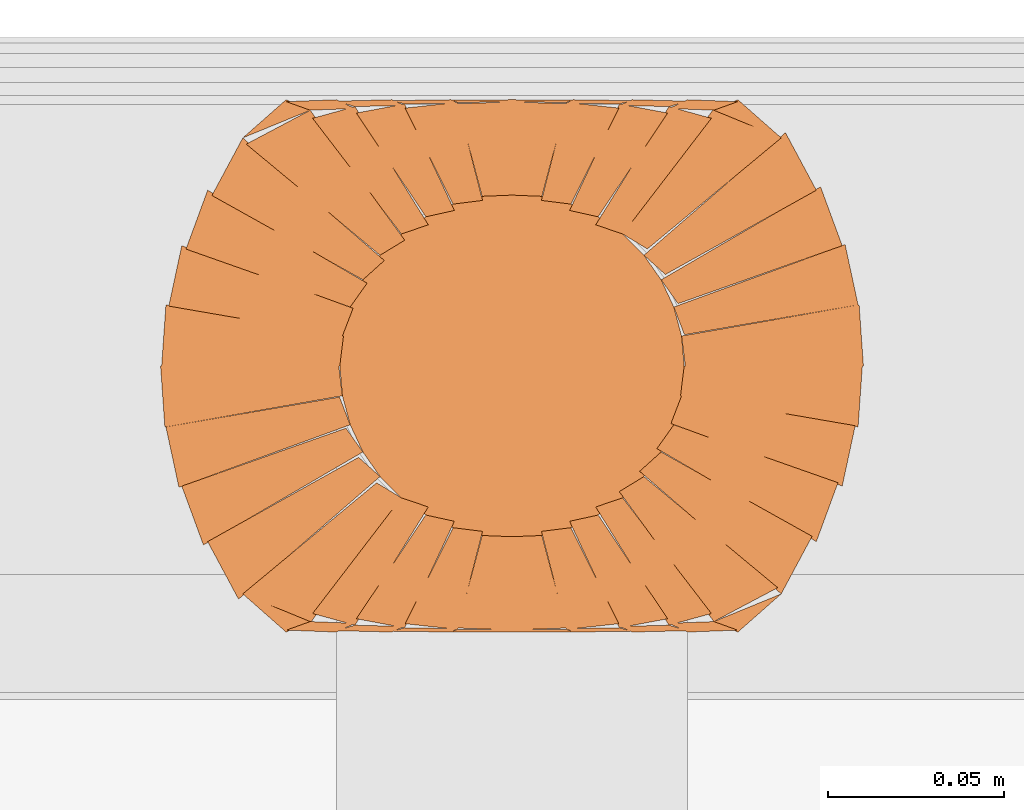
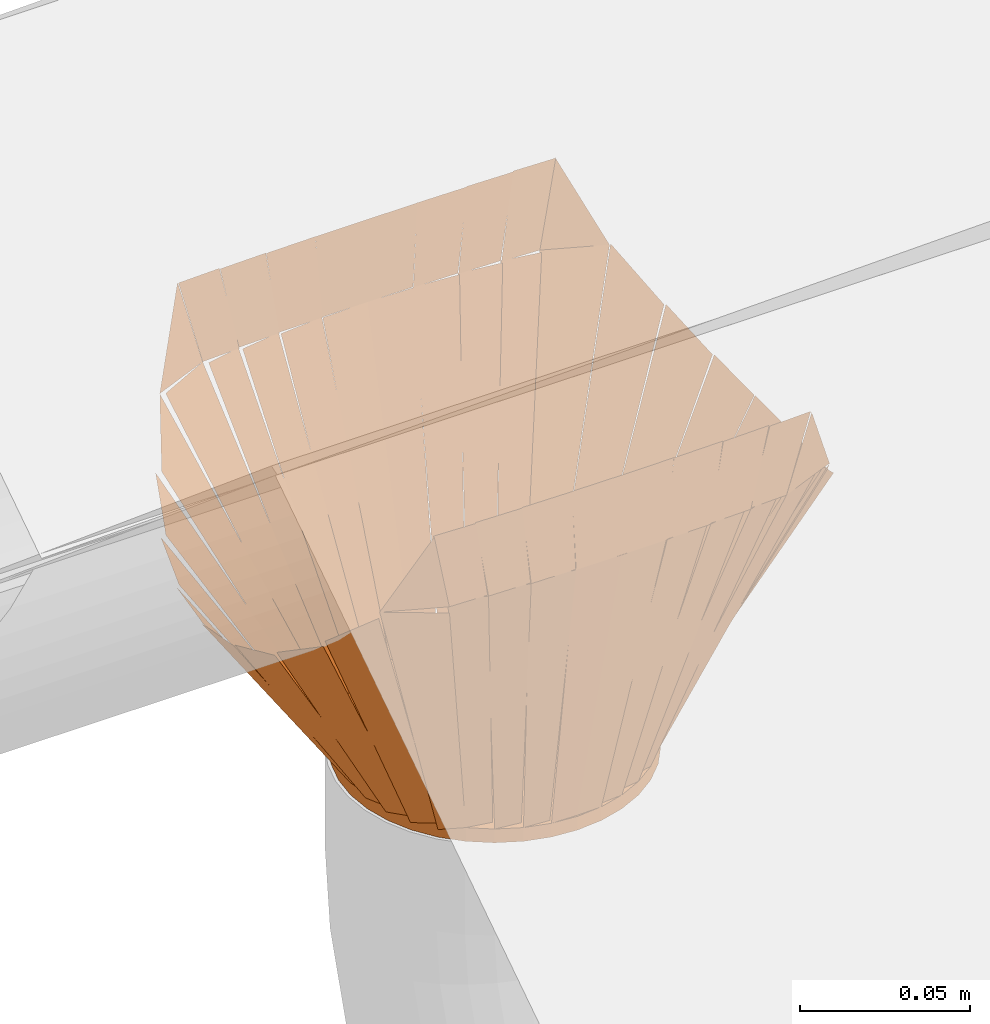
# One storey, part 33 of 43: 1 proxy.
"""IFC2X3 building model written with IfcOpenShell, lengths in millimetres."""

from ifc_helpers import new_model, si_unit, frame, origin_with_axes, place, context, project, spatial, faceted_brep, element, save


model = new_model("IFC2X3")

# Units and contexts
model_context = context("Model", 3, world=origin_with_axes())
ifc_project = project(units=[si_unit("LENGTHUNIT", "METRE", prefix="MILLI")], contexts=[model_context])

# Site, building, storey
site_placement = place(None, origin_with_axes())
site = spatial("IfcSite", under=ifc_project, at=site_placement, Name="Site", CompositionType="ELEMENT")
building_placement = place(site_placement, origin_with_axes())
building = spatial("IfcBuilding", under=site, at=building_placement, Name="?", CompositionType="ELEMENT")
storey_placement = place(building_placement, frame((0.0, 0.0, 5938.0), z_axis=(0.0, 0.0, 1.0), x_axis=(1.0, 0.0, 0.0)))
storey = spatial("IfcBuildingStorey", under=building, at=storey_placement, Name="Dachgeschoß", CompositionType="ELEMENT", Elevation=5938.0)

# Proxy
proxy_placement = place(None, origin_with_axes())
element("IfcBuildingElementProxy", 1, at=proxy_placement, inside=storey, Name="Dach04_Sump#001", ObjectType="sump", CompositionType="ELEMENT", context=model_context, shape_type="Brep", body=[
    faceted_brep([(51.0, 579.010009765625, 6505.79443359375), (0.30090216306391, 578.967993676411, 6580.93962337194), (1.51919832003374, 596.374810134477, 6582.73663250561), (52.0453037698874, 587.47679385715, 6505.99742441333), (51.7444000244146, 587.518798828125, 6505.79443359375), (2.33548522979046, 596.02236483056, 6583.29570176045), (6.03070076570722, 613.211998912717, 6588.73663108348), (54.771384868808, 595.416564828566, 6506.3535043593), (53.9551010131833, 595.768981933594, 6505.79443359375), (7.23261876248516, 612.249947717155, 6589.59595129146), (13.3975000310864, 629.009981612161, 6599.73663675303), (58.766720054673, 602.547947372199, 6506.65374850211), (57.5648002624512, 603.510009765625, 6505.79443359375), (14.6082441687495, 627.506340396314, 6600.66517917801), (23.3955984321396, 643.888809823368, 6615.736631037), (63.6745464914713, 609.002940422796, 6506.72298136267), (62.4637985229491, 610.506591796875, 6505.79443359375), (24.3718714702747, 642.11923380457, 6616.57727050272), (42.5750986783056, 651.762690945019, 6615.73663044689), (69.4796717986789, 614.776634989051, 6506.63507364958), (68.5034027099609, 616.546203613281, 6505.79443359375), (43.2615551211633, 649.473509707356, 6616.57347435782), (55.3313026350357, 652.786904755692, 6615.73663420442), (76.186455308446, 619.15600860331, 6506.63127382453), (75.5000000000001, 621.445190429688, 6505.79443359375), (55.6954994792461, 650.963182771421, 6616.28910531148), (69.4448001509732, 653.541589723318, 6615.7366356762), (83.605198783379, 623.231183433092, 6506.3469032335), (83.2409973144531, 625.054870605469, 6505.79443359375), (69.5788719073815, 652.373219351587, 6616.04275099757), (84.4866973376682, 654.003770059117, 6615.73663149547), (91.6252723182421, 626.097219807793, 6506.10055309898), (91.4912033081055, 627.265625, 6505.79443359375), (84.5017490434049, 653.602238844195, 6615.83370153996), (100.00000317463, 654.159424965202, 6615.7366309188), (100.015048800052, 627.608438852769, 6505.89150420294), (108.508796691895, 627.265625, 6505.79443359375), (99.984951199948, 627.608438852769, 6505.89150420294), (99.9999968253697, 654.159424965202, 6615.7366309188), (115.498250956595, 653.602238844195, 6615.83370153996), (116.759002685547, 625.054870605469, 6505.79443359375), (108.374727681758, 626.097219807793, 6506.10055309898), (115.513302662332, 654.003770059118, 6615.73663149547), (130.421128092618, 652.373219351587, 6616.04275099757), (124.5, 621.445190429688, 6505.79443359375), (116.394801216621, 623.231183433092, 6506.3469032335), (130.555199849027, 653.541589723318, 6615.7366356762), (144.304500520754, 650.963182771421, 6616.28910531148), (131.496597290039, 616.546203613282, 6505.79443359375), (123.813544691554, 619.156008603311, 6506.63127382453), (144.668697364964, 652.786904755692, 6615.73663420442), (156.738444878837, 649.473509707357, 6616.57347435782), (131.496597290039, 616.546203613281, 6505.79443359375), (158.401170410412, 653.532259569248, 6614.89599039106), (176.604397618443, 643.888802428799, 6615.73663044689), (138.512470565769, 612.276160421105, 6504.95379353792), (137.536193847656, 610.506591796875, 6505.79443359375), (177.815141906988, 645.392461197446, 6614.80808326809), (186.602496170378, 629.009991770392, 6599.73663140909), (143.645940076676, 605.013661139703, 6504.86588582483), (142.435195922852, 603.510009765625, 6505.79443359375), (187.804415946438, 629.972044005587, 6598.87732184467), (193.96929721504, 613.212010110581, 6588.7366363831), (147.246814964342, 596.73104432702, 6504.93511868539), (146.044906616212, 595.768981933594, 6505.79443359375), (194.785596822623, 613.564421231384, 6588.17755842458), (198.480803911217, 596.374881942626, 6582.73663496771), (149.071899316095, 587.871220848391, 6505.23535685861), (148.255599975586, 587.518798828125, 6505.79443359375), (198.78169916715, 596.416914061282, 6582.5336459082), (199.999998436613, 579.009999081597, 6580.73663465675), (149.300900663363, 579.052014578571, 6505.59144481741), (149.0, 579.010009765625, 6505.79443359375), (199.699103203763, 579.052025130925, 6580.93961803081), (198.480800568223, 561.645209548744, 6582.73663139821), (147.954702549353, 570.543325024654, 6505.99742015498), (148.255599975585, 570.501281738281, 6505.79443359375), (197.664497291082, 561.997622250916, 6583.29571912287), (193.969300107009, 544.807981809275, 6588.73663588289), (145.228596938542, 562.603422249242, 6506.35351666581), (146.044906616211, 562.2509765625, 6505.79443359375), (192.7673644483, 545.770016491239, 6589.59596421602), (186.602605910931, 529.009975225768, 6599.73663640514), (141.233365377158, 555.472017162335, 6506.65376173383), (142.435302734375, 554.510009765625, 6505.79443359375), (185.391873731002, 530.513671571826, 6600.66517290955), (176.604501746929, 514.131308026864, 6615.73663441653), (136.325474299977, 549.017072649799, 6506.72297220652), (137.536193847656, 547.513427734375, 6505.79443359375), (175.628225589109, 515.900862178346, 6616.5772624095), (157.424993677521, 506.257327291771, 6615.7366306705), (130.520325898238, 543.24336255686, 6506.63506533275), (131.496597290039, 541.473815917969, 6505.79443359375), (156.738545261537, 508.546520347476, 6616.5734784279), (144.668697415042, 505.233114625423, 6615.73663476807), (123.81354494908, 538.864021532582, 6506.63127727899), (124.5, 536.574829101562, 6505.79443359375), (144.304500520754, 507.056836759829, 6616.28910531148), (130.555199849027, 504.478429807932, 6615.7366356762), (116.394801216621, 534.788836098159, 6506.3469032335), (116.759002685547, 532.965087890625, 6505.79443359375), (130.421128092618, 505.646739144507, 6616.04275099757), (115.513302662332, 504.016188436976, 6615.73663149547), (108.374727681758, 531.922738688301, 6506.10055309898), (108.508796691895, 530.75439453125, 6505.79443359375), (115.498250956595, 504.417780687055, 6615.83370153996), (99.9999968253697, 503.860594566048, 6615.7366309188), (99.984951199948, 530.411580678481, 6505.89150420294), (91.4913024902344, 530.75439453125, 6505.79443359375), (100.015048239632, 530.411581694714, 6505.89150445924), (100.000002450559, 503.86059390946, 6615.73663117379), (84.501848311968, 504.417781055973, 6615.83370203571), (83.2409973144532, 532.965087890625, 6505.79443359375), (91.6253710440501, 531.922732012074, 6506.10055124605), (84.4867973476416, 504.016188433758, 6615.73663560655), (69.578970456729, 505.646732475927, 6616.04275325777), (75.5000000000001, 536.57470703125, 6505.79443359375), (83.6051803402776, 534.788761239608, 6506.34688478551), (69.4448998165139, 504.478405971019, 6615.73663578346), (55.69557949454, 507.056760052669, 6616.28908697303), (68.5034027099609, 541.473815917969, 6505.79443359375), (76.1864805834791, 538.863968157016, 6506.63129507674), (55.3314026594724, 505.233115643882, 6615.73663264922), (43.2615804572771, 508.546568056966, 6616.57349410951), (68.5034027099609, 541.473815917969, 6505.79443359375), (41.5988295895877, 504.487759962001, 6614.89599039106), (23.3956023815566, 514.13121710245, 6615.73663044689), (61.4875294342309, 545.743859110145, 6504.95379353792), (62.4637985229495, 547.513427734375, 6505.79443359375), (22.1848454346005, 512.627539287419, 6614.80807921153), (13.3974990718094, 529.009928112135, 6599.73663630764), (56.3540441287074, 553.006338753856, 6504.86587603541), (57.5648002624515, 554.510009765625, 6505.79443359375), (12.195592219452, 528.047891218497, 6598.87732511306), (6.03079927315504, 544.807910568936, 6588.73663091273), (52.7531931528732, 561.288990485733, 6504.93512814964), (53.9551010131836, 562.2509765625, 6505.79443359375), (5.21449563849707, 544.455431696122, 6588.17755185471), (1.51919909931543, 561.645076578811, 6582.73663560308), (50.928097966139, 570.148731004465, 6505.23534983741), (51.7444000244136, 570.501220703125, 6505.79443359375), (1.21830083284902, 561.603105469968, 6582.5336459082), (1.56338665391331e-06, 579.010020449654, 6580.73663465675), (50.6990993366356, 578.968004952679, 6505.59144481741), (42.5750999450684, 651.7626953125, 6615.736328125), (23.3955993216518, 643.888794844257, 6615.736328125), (35.7211997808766, 654.749995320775, 6645.00632737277), (50.0, 654.75, 6645.00634765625), (55.3515904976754, 652.251305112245, 6615.78586307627), (42.5751001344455, 651.76269994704, 6615.73634729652), (35.7414908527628, 654.214405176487, 6645.05586343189), (65.7979965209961, 654.75, 6645.00634765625), (69.4548134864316, 653.144589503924, 6615.75939249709), (55.3312966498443, 652.786899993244, 6615.7363475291), (50.0100137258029, 654.352989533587, 6645.02939262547), (82.6352005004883, 654.75, 6645.00634765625), (84.4902347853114, 653.760031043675, 6615.74481863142), (69.4448005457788, 653.541600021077, 6615.73634744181), (65.8015348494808, 654.506231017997, 6645.01481884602), (100.0, 654.75, 6645.00634765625), (100.000388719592, 654.077264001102, 6615.73823528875), (84.4867001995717, 654.003800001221, 6615.73634736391), (82.6355889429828, 654.667863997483, 6645.00823558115), (115.513298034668, 654.003784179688, 6615.736328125), (99.9996095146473, 654.077248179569, 6615.73821604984), (99.9999982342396, 654.749984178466, 6645.00632841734), (117.364409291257, 654.66784817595, 6645.00821634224), (130.555206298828, 653.541625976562, 6615.736328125), (115.509772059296, 653.760056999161, 6615.74479931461), (117.364806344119, 654.750025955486, 6645.00632833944), (134.198471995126, 654.506256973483, 6645.01479952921), (144.668701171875, 652.786926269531, 6615.736328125), (130.545184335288, 653.144615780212, 6615.75937309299), (134.202001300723, 654.750026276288, 6645.00632825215), (149.989984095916, 654.353015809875, 6645.02937322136), (157.424896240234, 651.7626953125, 6615.736328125), (144.648405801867, 652.251302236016, 6615.78584371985), (149.999996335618, 654.749995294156, 6645.00632838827), (164.258405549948, 654.214402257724, 6645.05584398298), (176.604400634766, 643.888793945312, 6615.736328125), (157.424900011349, 651.762694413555, 6615.736328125), (164.278700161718, 654.749994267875, 6645.00632773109), (157.425003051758, 506.257293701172, 6615.736328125), (176.604502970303, 514.131293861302, 6615.736328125), (164.278802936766, 503.269993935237, 6645.00632830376), (150.0, 503.269989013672, 6645.00634765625), (144.648409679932, 505.768681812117, 6615.78586309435), (157.424999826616, 506.25728894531, 6615.73634755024), (164.258509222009, 503.805581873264, 6645.05586320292), (134.201995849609, 503.269989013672, 6645.00634765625), (130.545178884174, 504.875399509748, 6615.75939249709), (144.668695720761, 505.233089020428, 6615.7363475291), (149.989978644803, 503.666999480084, 6645.02939262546), (117.364898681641, 503.269989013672, 6645.00634765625), (115.509764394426, 504.259957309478, 6615.74481858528), (130.555198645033, 504.478389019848, 6615.73634741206), (134.198464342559, 503.513757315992, 6645.01481882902), (100.0, 503.269989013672, 6645.00634765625), (99.9996112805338, 503.942725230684, 6615.73823528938), (115.513299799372, 504.016189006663, 6615.73634735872), (117.36451105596, 503.352125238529, 6645.00823558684), (84.4868011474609, 504.016204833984, 6615.736328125), (100.000389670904, 503.942741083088, 6615.73821605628), (100.000000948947, 503.27000481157, 6645.00632842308), (82.6355898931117, 503.352141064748, 6645.00821635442), (69.4449005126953, 504.478393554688, 6615.736328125), (84.4903347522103, 504.259962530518, 6615.74479932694), (82.6352004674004, 503.269993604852, 6645.00632839), (65.8015348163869, 503.513762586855, 6645.01479959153), (55.3314018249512, 505.233093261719, 6615.736328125), (69.4549186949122, 504.875402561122, 6615.75937304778), (65.79800171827, 503.269993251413, 6645.00632834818), (50.0101188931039, 503.667002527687, 6645.02937326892), (42.5750999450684, 506.257293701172, 6615.736328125), (55.3516900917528, 505.768686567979, 6615.7858436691), (50.0000997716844, 503.269993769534, 6645.00632823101), (35.7415905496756, 503.805586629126, 6645.05584377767), (23.3955993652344, 514.131225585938, 6615.736328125), (42.5750999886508, 506.257325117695, 6615.736328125), (35.7212998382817, 503.270025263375, 6645.00632773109), (51.0, 579.010009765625, 6500.82421875), (51.0, 579.010009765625, 6505.79421875), (51.7444000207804, 587.518809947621, 6505.79421875), (51.7444000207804, 587.518809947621, 6500.82421875), (51.7444000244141, 587.518798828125, 6500.82421875), (51.7444000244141, 587.518798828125, 6505.79421875), (53.9550999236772, 595.76899881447, 6505.79421875), (53.9550999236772, 595.76899881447, 6500.82421875), (53.9551010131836, 595.768981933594, 6500.82421875), (53.9551010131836, 595.768981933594, 6505.79421875), (57.5648010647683, 603.509981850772, 6505.79421875), (57.5648010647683, 603.509981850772, 6500.82421875), (57.5648002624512, 603.510009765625, 6500.82421875), (57.5648002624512, 603.510009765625, 6505.79421875), (62.4638003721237, 610.506609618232, 6505.79421875), (62.4638003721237, 610.506609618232, 6500.82421875), (62.4637985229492, 610.506591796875, 6500.82421875), (62.4637985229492, 610.506591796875, 6505.79421875), (68.5033984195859, 616.546191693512, 6505.79421875), (68.5033984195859, 616.546191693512, 6500.82421875), (68.503402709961, 616.546203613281, 6500.82421875), (68.503402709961, 616.546203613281, 6505.79421875), (75.5000025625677, 621.445203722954, 6505.79421875), (75.5000025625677, 621.445203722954, 6500.82421875), (75.5, 621.445190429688, 6500.82421875), (75.5, 621.445190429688, 6505.79421875), (83.2409999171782, 625.054890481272, 6505.79421875), (83.2409999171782, 625.054890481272, 6500.82421875), (83.2409973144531, 625.054870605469, 6500.82421875), (83.2409973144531, 625.054870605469, 6505.79421875), (91.4911973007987, 627.265570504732, 6505.79421875), (91.4911973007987, 627.265570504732, 6500.82421875), (91.4912033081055, 627.265625, 6500.82421875), (91.4912033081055, 627.265625, 6505.79421875), (100.000003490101, 628.01002502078, 6505.79421875), (100.000003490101, 628.01002502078, 6500.82421875), (100.0, 628.010009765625, 6500.82421875), (100.0, 628.010009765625, 6505.79421875), (108.508800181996, 627.265609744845, 6505.79421875), (108.508800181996, 627.265609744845, 6500.82421875), (108.508796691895, 627.265625, 6500.82421875), (108.508796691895, 627.265625, 6505.79421875), (116.75899667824, 625.054925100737, 6505.79421875), (116.75899667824, 625.054925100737, 6500.82421875), (116.759002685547, 625.054870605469, 6500.82421875), (116.759002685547, 625.054870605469, 6505.79421875), (124.500002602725, 621.445170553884, 6505.79421875), (124.500002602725, 621.445170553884, 6500.82421875), (124.5, 621.445190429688, 6500.82421875), (124.5, 621.445190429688, 6505.79421875), (131.496599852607, 616.546190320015, 6505.79421875), (131.496599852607, 616.546190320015, 6500.82421875), (131.496597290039, 616.546203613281, 6500.82421875), (131.496597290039, 616.546203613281, 6505.79421875), (137.536197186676, 610.506603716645, 6505.79421875), (137.536197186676, 610.506603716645, 6500.82421875), (137.536193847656, 610.506591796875, 6500.82421875), (137.536193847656, 610.506591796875, 6505.79421875), (142.435193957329, 603.509991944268, 6505.79421875), (142.435193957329, 603.509991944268, 6500.82421875), (142.435195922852, 603.510009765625, 6500.82421875), (142.435195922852, 603.510009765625, 6505.79421875), (146.044895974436, 595.769009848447, 6505.79421875), (146.044895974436, 595.769009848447, 6500.82421875), (146.044906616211, 595.768981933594, 6500.82421875), (146.044906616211, 595.768981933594, 6505.79421875), (148.255606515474, 587.518781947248, 6505.79421875), (148.255606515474, 587.518781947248, 6500.82421875), (148.255599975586, 587.518798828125, 6500.82421875), (148.255599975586, 587.518798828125, 6505.79421875), (148.999999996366, 579.009998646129, 6505.79421875), (148.999999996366, 579.009998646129, 6500.82421875), (149.0, 579.010009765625, 6500.82421875), (149.0, 579.010009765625, 6505.79421875), (148.255600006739, 570.501309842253, 6505.79421875), (148.255600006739, 570.501309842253, 6500.82421875), (148.255599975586, 570.501281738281, 6500.82421875), (148.255599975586, 570.501281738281, 6505.79421875), (146.044900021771, 562.250981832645, 6505.79421875), (146.044900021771, 562.250981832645, 6500.82421875), (146.044906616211, 562.2509765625, 6500.82421875), (146.044906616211, 562.2509765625, 6505.79421875), (142.435306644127, 554.509976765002, 6505.79421875), (142.435306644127, 554.509976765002, 6500.82421875), (142.435302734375, 554.510009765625, 6500.82421875), (142.435302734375, 554.510009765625, 6505.79421875), (137.536202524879, 547.51340976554, 6505.79421875), (137.536202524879, 547.51340976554, 6500.82421875), (137.536193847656, 547.513427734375, 6500.82421875), (137.536193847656, 547.513427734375, 6505.79421875), (131.49659395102, 541.473827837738, 6505.79421875), (131.49659395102, 541.473827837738, 6500.82421875), (131.496597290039, 541.473815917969, 6500.82421875), (131.496597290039, 541.473815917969, 6505.79421875), (124.499997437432, 536.574815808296, 6505.79421875), (124.499997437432, 536.574815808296, 6500.82421875), (124.5, 536.574829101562, 6500.82421875), (124.5, 536.574829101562, 6505.79421875), (116.759000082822, 532.965129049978, 6505.79421875), (116.759000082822, 532.965129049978, 6500.82421875), (116.759002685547, 532.965087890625, 6500.82421875), (116.759002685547, 532.965087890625, 6505.79421875), (108.508802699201, 530.754387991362, 6505.79421875), (108.508802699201, 530.754387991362, 6500.82421875), (108.508796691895, 530.75439453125, 6500.82421875), (108.508796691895, 530.75439453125, 6505.79421875), (99.9999965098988, 530.00999451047, 6505.79421875), (99.9999965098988, 530.00999451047, 6500.82421875), (100.0, 530.010009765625, 6500.82421875), (100.0, 530.010009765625, 6505.79421875), (91.4913000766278, 530.754409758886, 6505.79421875), (91.4913000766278, 530.754409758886, 6500.82421875), (91.4913024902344, 530.75439453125, 6500.82421875), (91.4913149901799, 530.754441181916, 6505.79421874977), (83.2410023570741, 532.965094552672, 6505.79421875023), (83.241014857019, 532.965041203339, 6500.82421874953), (83.2409973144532, 532.965026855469, 6500.82421875), (83.2409781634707, 532.965085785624, 6505.79421875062), (75.4999972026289, 536.574726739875, 6505.79421875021), (75.499978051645, 536.574685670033, 6500.82421875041), (75.5, 536.57470703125, 6500.82421875), (75.5, 536.57470703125, 6505.79421875), (68.5033999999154, 541.473807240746, 6505.79421875), (68.5033999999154, 541.473807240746, 6500.82421875), (68.5034027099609, 541.473815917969, 6500.82421875), (68.5034027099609, 541.473815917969, 6505.79421875), (62.4638028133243, 547.513415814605, 6505.79421875), (62.4638028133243, 547.513415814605, 6500.82421875), (62.4637985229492, 547.513427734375, 6500.82421875), (62.4637985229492, 547.513427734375, 6505.79421875), (57.5647984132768, 554.510027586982, 6505.79421875), (57.5647984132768, 554.510027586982, 6500.82421875), (57.5648002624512, 554.510009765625, 6500.82421875), (57.5648002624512, 554.510009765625, 6505.79421875), (53.9551002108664, 562.251009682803, 6505.79421875), (53.9551002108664, 562.251009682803, 6500.82421875), (53.9551010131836, 562.2509765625, 6500.82421875), (53.9551010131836, 562.2509765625, 6505.79421875), (51.7444011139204, 570.501176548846, 6505.79421875), (51.7444011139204, 570.501176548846, 6500.82421875), (51.7444000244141, 570.501220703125, 6500.82421875), (51.7444000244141, 570.501220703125, 6505.79421875), (51.0000000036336, 579.010020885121, 6505.79421875), (51.0000000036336, 579.010020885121, 6500.82421875), (53.9551010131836, 562.2509765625, 6500.82421875), (51.0000010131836, 579.0099765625, 6500.82421875), (62.4638010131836, 547.5133765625, 6500.82421875), (57.5648010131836, 554.5099765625, 6500.82421875), (62.4637985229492, 547.513427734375, 6500.82421875), (91.4912985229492, 530.754427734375, 6500.82421875), (75.4999985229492, 536.574727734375, 6500.82421875), (68.5033985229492, 541.473827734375, 6500.82421875), (75.5, 536.57470703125, 6500.82421875), (91.4913, 530.75440703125, 6500.82421875), (83.241, 532.96500703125, 6500.82421875), (91.4913024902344, 530.75439453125, 6500.82421875), (124.500002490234, 536.57479453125, 6500.82421875), (108.508802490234, 530.75439453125, 6500.82421875), (100.000002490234, 530.00999453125, 6500.82421875), (108.508796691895, 530.75439453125, 6500.82421875), (124.499996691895, 536.57479453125, 6500.82421875), (116.758996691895, 532.96509453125, 6500.82421875), (124.5, 536.574829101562, 6500.82421875), (146.0449, 562.251029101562, 6500.82421875), (137.5362, 547.513429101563, 6500.82421875), (131.4966, 541.473829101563, 6500.82421875), (137.536193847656, 547.513427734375, 6500.82421875), (146.044893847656, 562.251027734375, 6500.82421875), (142.435293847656, 554.510027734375, 6500.82421875), (91.4913024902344, 530.75439453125, 6500.82421875), (62.4638024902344, 610.50659453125, 6500.82421875), (146.044902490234, 562.25099453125, 6500.82421875), (124.500002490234, 536.57479453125, 6500.82421875), (146.044906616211, 562.2509765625, 6500.82421875), (146.044906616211, 595.7689765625, 6500.82421875), (149.000006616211, 579.0099765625, 6500.82421875), (148.255606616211, 570.5012765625, 6500.82421875), (149.0, 579.010009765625, 6500.82421875), (146.0449, 595.769009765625, 6500.82421875), (148.2556, 587.518809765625, 6500.82421875), (146.044906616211, 595.768981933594, 6500.82421875), (124.500006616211, 621.445181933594, 6500.82421875), (137.536206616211, 610.506581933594, 6500.82421875), (142.435206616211, 603.509981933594, 6500.82421875), (137.536193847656, 610.506591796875, 6500.82421875), (124.499993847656, 621.445191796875, 6500.82421875), (131.496593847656, 616.546191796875, 6500.82421875), (146.044906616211, 562.2509765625, 6500.82421875), (62.4638066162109, 610.5065765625, 6500.82421875), (124.500006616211, 621.4451765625, 6500.82421875), (146.044906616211, 595.7689765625, 6500.82421875), (124.5, 621.445190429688, 6500.82421875), (91.4912, 627.265590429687, 6500.82421875), (108.5088, 627.265590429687, 6500.82421875), (116.759, 625.054890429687, 6500.82421875), (108.508796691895, 627.265625, 6500.82421875), (91.4911966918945, 627.265625, 6500.82421875), (99.9999966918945, 628.010025, 6500.82421875), (91.4912033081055, 627.265625, 6500.82421875), (62.4638033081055, 610.506625, 6500.82421875), (75.5000033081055, 621.445225, 6500.82421875), (83.2410033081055, 625.054925, 6500.82421875), (75.5, 621.445190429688, 6500.82421875), (62.4638, 610.506590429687, 6500.82421875), (68.5034, 616.546190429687, 6500.82421875), (124.5, 621.445190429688, 6500.82421875), (62.4638, 610.506590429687, 6500.82421875), (91.4912, 627.265590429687, 6500.82421875), (62.4637985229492, 610.506591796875, 6500.82421875), (50.9999985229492, 579.009991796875, 6500.82421875), (53.9550985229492, 595.768991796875, 6500.82421875), (57.5647985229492, 603.509991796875, 6500.82421875), (53.9551010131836, 595.768981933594, 6500.82421875), (51.0000010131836, 579.009981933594, 6500.82421875), (51.7444010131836, 587.518781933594, 6500.82421875), (91.4913024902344, 530.75439453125, 6500.82421875), (62.4638024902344, 547.51339453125, 6500.82421875), (51.0000024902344, 579.00999453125, 6500.82421875), (62.4638024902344, 610.50659453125, 6500.82421875), (51.7444000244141, 570.501220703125, 6500.82421875), (51.0000000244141, 579.010020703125, 6500.82421875), (53.9551000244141, 562.251020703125, 6500.82421875), (51.7444000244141, 587.518798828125, 6505.79443359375), (51.7444000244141, 570.501198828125, 6505.79443359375), (57.5648000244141, 603.509998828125, 6505.79443359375), (53.9551000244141, 595.768998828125, 6505.79443359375), (57.5648002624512, 603.510009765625, 6505.79443359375), (83.2410002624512, 625.054909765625, 6505.79443359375), (68.5034002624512, 616.546209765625, 6505.79443359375), (62.4638002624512, 610.506609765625, 6505.79443359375), (68.5034027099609, 616.546203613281, 6505.79443359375), (83.2410027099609, 625.054903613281, 6505.79443359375), (75.5000027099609, 621.445203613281, 6505.79443359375), (83.2409973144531, 625.054870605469, 6505.79443359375), (116.758997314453, 625.054870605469, 6505.79443359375), (99.9999973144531, 628.009970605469, 6505.79443359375), (91.4911973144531, 627.265570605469, 6505.79443359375), (100.0, 628.010009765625, 6505.79443359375), (116.759, 625.054909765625, 6505.79443359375), (108.5088, 627.265609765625, 6505.79443359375), (116.759002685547, 625.054870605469, 6505.79443359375), (142.435202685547, 603.509970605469, 6505.79443359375), (131.496602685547, 616.546170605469, 6505.79443359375), (124.500002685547, 621.445170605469, 6505.79443359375), (131.496597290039, 616.546203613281, 6505.79443359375), (142.435197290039, 603.510003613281, 6505.79443359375), (137.536197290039, 610.506603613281, 6505.79443359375), (83.2409973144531, 625.054870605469, 6505.79443359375), (68.5033973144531, 541.473770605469, 6505.79443359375), (142.435197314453, 603.509970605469, 6505.79443359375), (116.758997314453, 625.054870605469, 6505.79443359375), (142.435195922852, 603.510009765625, 6505.79443359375), (148.255595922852, 570.501309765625, 6505.79443359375), (148.255595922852, 587.518809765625, 6505.79443359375), (146.044895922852, 595.769009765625, 6505.79443359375), (148.255599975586, 587.518798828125, 6505.79443359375), (148.255599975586, 570.501298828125, 6505.79443359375), (148.999999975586, 579.009998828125, 6505.79443359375), (148.255599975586, 570.501281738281, 6505.79443359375), (131.496599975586, 541.473781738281, 6505.79443359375), (142.435299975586, 554.509981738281, 6505.79443359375), (146.044899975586, 562.250981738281, 6505.79443359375), (142.435302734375, 554.510009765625, 6505.79443359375), (131.496602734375, 541.473809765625, 6505.79443359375), (137.536202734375, 547.513409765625, 6505.79443359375), (142.435195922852, 603.510009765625, 6505.79443359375), (68.5033959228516, 541.473809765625, 6505.79443359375), (131.496595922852, 541.473809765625, 6505.79443359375), (148.255595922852, 570.501309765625, 6505.79443359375), (131.496597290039, 541.473815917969, 6505.79443359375), (99.9999972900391, 530.010015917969, 6505.79443359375), (116.758997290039, 532.965115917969, 6505.79443359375), (124.499997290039, 536.574815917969, 6505.79443359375), (116.759002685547, 532.965087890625, 6505.79443359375), (100.000002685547, 530.009987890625, 6505.79443359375), (108.508802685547, 530.754387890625, 6505.79443359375), (100.0, 530.010009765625, 6505.79443359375), (68.5034, 541.473809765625, 6505.79443359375), (83.241, 532.965109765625, 6505.79443359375), (91.4913, 530.754409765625, 6505.79443359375), (83.2409973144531, 532.965087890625, 6505.79443359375), (68.5033973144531, 541.473787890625, 6505.79443359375), (75.4999973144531, 536.574687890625, 6505.79443359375), (131.496597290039, 541.473815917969, 6505.79443359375), (68.5033972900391, 541.473815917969, 6505.79443359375), (99.9999972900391, 530.010015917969, 6505.79443359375), (68.5034027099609, 541.473815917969, 6505.79443359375), (51.7444027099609, 570.501215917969, 6505.79443359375), (57.5648027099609, 554.510015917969, 6505.79443359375), (62.4638027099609, 547.513415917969, 6505.79443359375), (57.5648002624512, 554.510009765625, 6505.79443359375), (51.7444002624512, 570.501209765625, 6505.79443359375), (53.9551002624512, 562.251009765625, 6505.79443359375), (83.2409973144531, 625.054870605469, 6505.79443359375), (57.5647973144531, 603.509970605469, 6505.79443359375), (51.7443973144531, 570.501170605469, 6505.79443359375), (68.5033973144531, 541.473770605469, 6505.79443359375), (51.0, 579.010009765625, 6505.79443359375), (51.7444, 570.501209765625, 6505.79443359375), (51.7444, 587.518809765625, 6505.79443359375)], [[[0, 1, 2, 3]], [[4, 5, 6, 7]], [[8, 9, 10, 11]], [[12, 13, 14, 15]], [[16, 17, 18, 19]], [[20, 21, 22, 23]], [[24, 25, 26, 27]], [[28, 29, 30, 31]], [[32, 33, 34, 35]], [[36, 37, 38, 39]], [[40, 41, 42, 43]], [[44, 45, 46, 47]], [[48, 49, 50, 51]], [[52, 53, 54, 55]], [[56, 57, 58, 59]], [[60, 61, 62, 63]], [[64, 65, 66, 67]], [[68, 69, 70, 71]], [[72, 73, 74, 75]], [[76, 77, 78, 79]], [[80, 81, 82, 83]], [[84, 85, 86, 87]], [[88, 89, 90, 91]], [[92, 93, 94, 95]], [[96, 97, 98, 99]], [[100, 101, 102, 103]], [[104, 105, 106, 107]], [[108, 109, 110, 111]], [[112, 113, 114, 115]], [[116, 117, 118, 119]], [[120, 121, 122, 123]], [[124, 125, 126, 127]], [[128, 129, 130, 131]], [[132, 133, 134, 135]], [[136, 137, 138, 139]], [[140, 141, 142, 143]], [[144, 145, 146]], [[147, 148, 149, 150]], [[151, 152, 153, 154]], [[155, 156, 157, 158]], [[159, 160, 161, 162]], [[163, 164, 165, 166]], [[167, 168, 169, 170]], [[171, 172, 173, 174]], [[175, 176, 177, 178]], [[179, 180, 181]], [[182, 183, 184]], [[185, 186, 187, 188]], [[189, 190, 191, 192]], [[193, 194, 195, 196]], [[197, 198, 199, 200]], [[201, 202, 203, 204]], [[205, 206, 207, 208]], [[209, 210, 211, 212]], [[213, 214, 215, 216]], [[217, 218, 219]], [[220, 221, 222, 223]], [[224, 225, 226, 227]], [[228, 229, 230, 231]], [[232, 233, 234, 235]], [[236, 237, 238, 239]], [[240, 241, 242, 243]], [[244, 245, 246, 247]], [[248, 249, 250, 251]], [[252, 253, 254, 255]], [[256, 257, 258, 259]], [[260, 261, 262, 263]], [[264, 265, 266, 267]], [[268, 269, 270, 271]], [[272, 273, 274, 275]], [[276, 277, 278, 279]], [[280, 281, 282, 283]], [[284, 285, 286, 287]], [[288, 289, 290, 291]], [[292, 293, 294, 295]], [[296, 297, 298, 299]], [[300, 301, 302, 303]], [[304, 305, 306, 307]], [[308, 309, 310, 311]], [[312, 313, 314, 315]], [[316, 317, 318, 319]], [[320, 321, 322, 323]], [[324, 325, 326, 327]], [[328, 329, 330, 331]], [[332, 333, 334, 335]], [[336, 337, 338, 339]], [[340, 341, 342, 343]], [[344, 345, 346, 347]], [[348, 349, 350, 351]], [[352, 353, 354, 355]], [[356, 357, 358, 359]], [[360, 361, 362, 363]], [[364, 365, 366, 367]], [[368, 369, 370, 371]], [[372, 373, 374]], [[375, 376, 377, 378]], [[379, 380, 381]], [[382, 383, 384, 385]], [[386, 387, 388]], [[389, 390, 391, 392]], [[393, 394, 395, 396]], [[397, 398, 399]], [[400, 401, 402, 403]], [[404, 405, 406]], [[407, 408, 409, 410]], [[411, 412, 413, 414]], [[415, 416, 417]], [[418, 419, 420, 421]], [[422, 423, 424]], [[425, 426, 427]], [[428, 429, 430, 431]], [[432, 433, 434]], [[435, 436, 437, 438]], [[439, 440, 441]], [[442, 443, 444, 445]], [[446, 447, 448, 449]], [[450, 451, 452]], [[453, 454, 455, 456]], [[457, 458, 459]], [[460, 461, 462, 463]], [[464, 465, 466]], [[467, 468, 469, 470]], [[471, 472, 473, 474]], [[475, 476, 477]], [[478, 479, 480, 481]], [[482, 483, 484]], [[485, 486, 487, 488]], [[489, 490, 491, 492]], [[493, 494, 495]], [[496, 497, 498, 499]], [[500, 501, 502]], [[503, 504, 505]], [[506, 507, 508, 509]], [[510, 511, 512]], [[513, 514, 515, 516]], [[517, 518, 519]]]),
])

save(model, "model.ifc")
